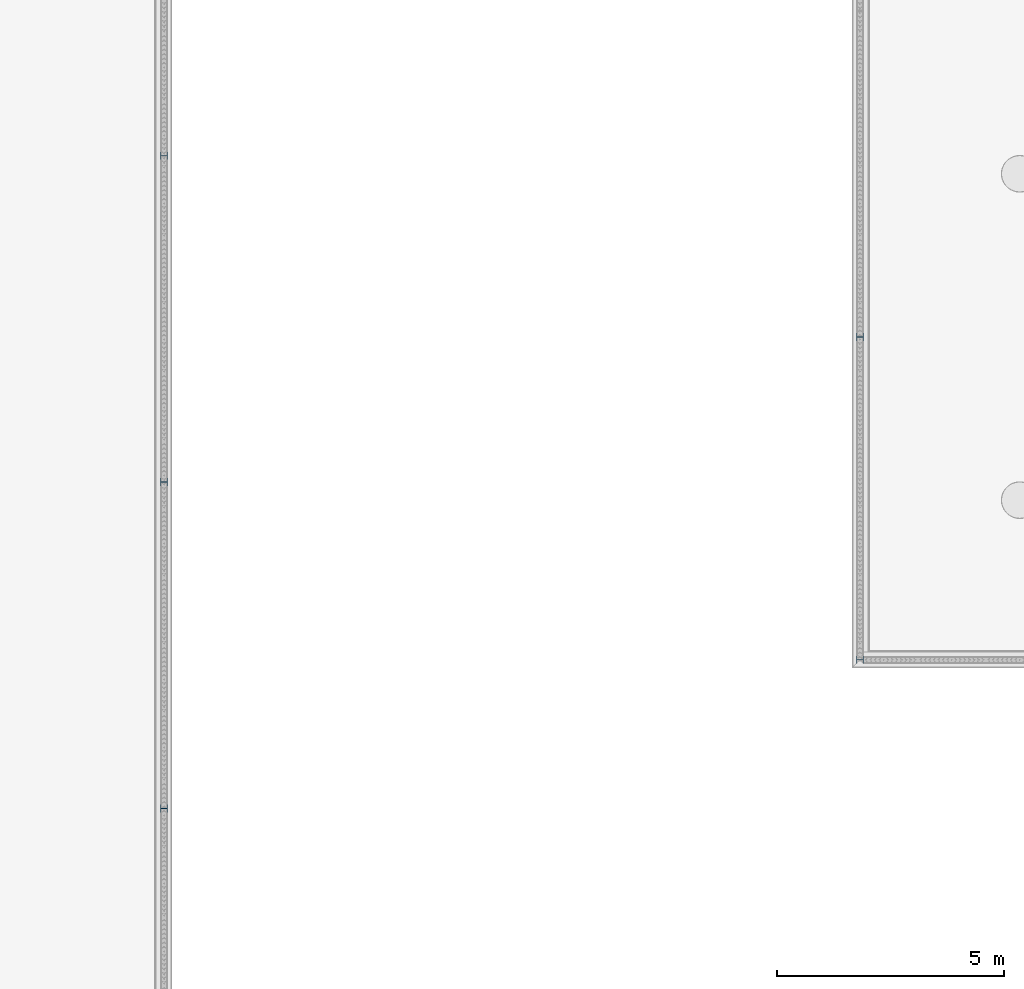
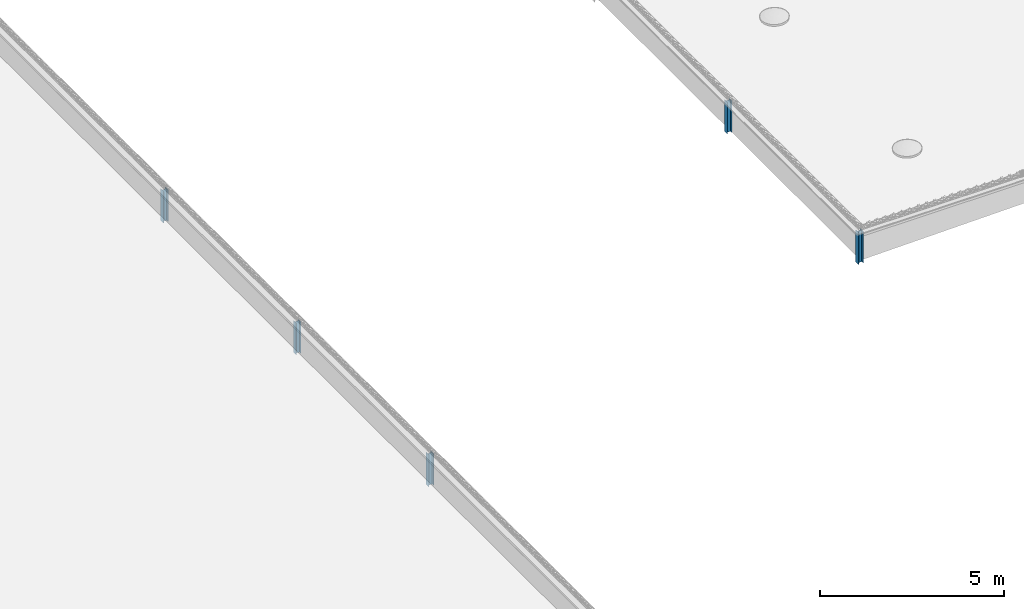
# One storey, part 9 of 81: 5 columns.
"""IFC2X3 building model written with IfcOpenShell, lengths in millimetres."""

from ifc_helpers import new_model, entity, si_unit, converted_unit, derived_unit, money_unit, direction, frame, origin_with_axes, place, context, subcontext, project, spatial, faceted_brep, material, type_object, element, save


model = new_model("IFC2X3")

# Units and contexts
model_context = context("Model", 3, precision=0.01, world=origin_with_axes(), true_north=direction((0.0, 1.0)))
body_context = subcontext(model_context, "Body", "Model", "MODEL_VIEW")
ifc_project = project(units=[si_unit("LENGTHUNIT", "METRE", prefix="MILLI"), si_unit("AREAUNIT", "SQUARE_METRE"), si_unit("VOLUMEUNIT", "CUBIC_METRE"), converted_unit("PLANEANGLEUNIT", "DEGREE", entity("IfcPlaneAngleMeasure", 0.0174532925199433), si_unit("PLANEANGLEUNIT", "RADIAN"), dimensions=[0, 0, 0, 0, 0, 0, 0]), money_unit("EUR"), converted_unit("TIMEUNIT", "Year", entity("IfcTimeMeasure", 31557600.0), si_unit("TIMEUNIT", "SECOND"), dimensions=[0, 0, 1, 0, 0, 0, 0]), si_unit("MASSUNIT", "GRAM", prefix="KILO"), si_unit("THERMODYNAMICTEMPERATUREUNIT", "DEGREE_CELSIUS"), si_unit("LUMINOUSINTENSITYUNIT", "LUMEN"), si_unit("ENERGYUNIT", "JOULE", prefix="MEGA"), derived_unit("THERMALCONDUCTANCEUNIT", [(si_unit("POWERUNIT", "WATT"), 1), (si_unit("LENGTHUNIT", "METRE"), -1), (si_unit("THERMODYNAMICTEMPERATUREUNIT", "KELVIN"), -1)]), derived_unit("SPECIFICHEATCAPACITYUNIT", [(si_unit("ENERGYUNIT", "JOULE"), 1), (si_unit("MASSUNIT", "GRAM", prefix="KILO"), -1), (si_unit("THERMODYNAMICTEMPERATUREUNIT", "KELVIN"), -1)]), derived_unit("MASSDENSITYUNIT", [(si_unit("MASSUNIT", "GRAM", prefix="KILO"), 1), (si_unit("VOLUMEUNIT", "CUBIC_METRE"), -1)])], contexts=[model_context])

# Site, building, storey
site_placement = place(None, origin_with_axes())
site = spatial("IfcSite", under=ifc_project, at=site_placement, Name="Site", CompositionType="ELEMENT")
building_placement = place(site_placement, origin_with_axes())
building = spatial("IfcBuilding", under=site, at=building_placement, Name="Naam gebouw", CompositionType="ELEMENT")
storey_placement = place(building_placement, frame((0.0, 0.0, 15320.0), z_axis=(0.0, 0.0, 1.0), x_axis=(1.0, 0.0, 0.0)))
storey = spatial("IfcBuildingStorey", under=building, at=storey_placement, Name="01 dak", CompositionType="ELEMENT", Elevation=15320.0)

# Columns
ifc_material = material(Name="Metaal - Staal C")
column_type = type_object("IfcColumnType", Name="HEA160 160 x 152", PredefinedType="COLUMN")
for number, where, z_axis, x_axis, name in (
    (1, (68424.0, 73199.99999999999, -400.0393597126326), (0.0, 0.0, 1.0), (0.0, -1.0, 0.0), "HEA160"),
    (2, (68424.0, 66000.0, -400.0393597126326), (0.0, 0.0, 1.0), (0.0, -1.0, 0.0), "HEA160"),
    (3, (68424.0, 58800.00000000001, -400.0393597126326), (0.0, 0.0, 1.0), (0.0, -1.0, 0.0), "HEA160"),
    (4, (83775.99999999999, 69200.0, -400.0393597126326), (0.0, 0.0, 1.0), (0.0, 1.0, 0.0), "HEA160"),
    (5, (83776.0, 62080.0, -400.0393597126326), (0.0, 0.0, 1.0), (0.0, 1.0, 0.0), "HEA160"),
):
    element("IfcColumn", number, at=place(storey_placement, frame(where, z_axis=z_axis, x_axis=x_axis)), inside=storey, type_object=column_type, material=ifc_material, Name=name, ObjectType="COLUMN", context=body_context, shape_type="Brep", body=[
        faceted_brep([(-79.9999999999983, 75.9999999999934, 1055.0), (-79.9999999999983, 75.9999999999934, 0.0), (-79.9999999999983, 66.99999999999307, 0.0), (-79.9999999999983, 66.99999999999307, 1055.0), (79.9999999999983, 75.9999999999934, 1055.0), (79.9999999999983, 75.9999999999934, 0.0), (79.9999999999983, 66.99999999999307, 0.0), (3.000000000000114, 66.99999999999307, 0.0), (3.000000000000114, -66.99999999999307, 0.0), (79.9999999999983, -66.99999999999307, 0.0), (79.9999999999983, -75.9999999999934, 0.0), (-79.9999999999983, -75.9999999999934, 0.0), (-79.9999999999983, -66.99999999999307, 0.0), (-3.000000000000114, -66.99999999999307, 0.0), (-3.000000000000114, 66.99999999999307, 0.0), (-3.000000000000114, 66.99999999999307, 1055.0), (-3.000000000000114, -66.99999999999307, 1055.0), (-79.9999999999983, -66.99999999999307, 1055.0), (-79.9999999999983, -75.9999999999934, 1055.0), (79.9999999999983, -75.9999999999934, 1055.0), (79.9999999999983, -66.99999999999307, 1055.0), (3.000000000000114, -66.99999999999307, 1055.0), (3.000000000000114, 66.99999999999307, 1055.0), (79.9999999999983, 66.99999999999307, 1055.0)], [[[0, 1, 2, 3]], [[4, 5, 1, 0]], [[2, 1, 5, 6, 7, 8, 9, 10, 11, 12, 13, 14]], [[3, 2, 14, 15]], [[4, 0, 3, 15, 16, 17, 18, 19, 20, 21, 22, 23]], [[23, 6, 5, 4]], [[22, 7, 6, 23]], [[21, 8, 7, 22]], [[20, 9, 8, 21]], [[19, 10, 9, 20]], [[18, 11, 10, 19]], [[17, 12, 11, 18]], [[16, 13, 12, 17]], [[15, 14, 13, 16]]]),
    ])

save(model, "model.ifc")
